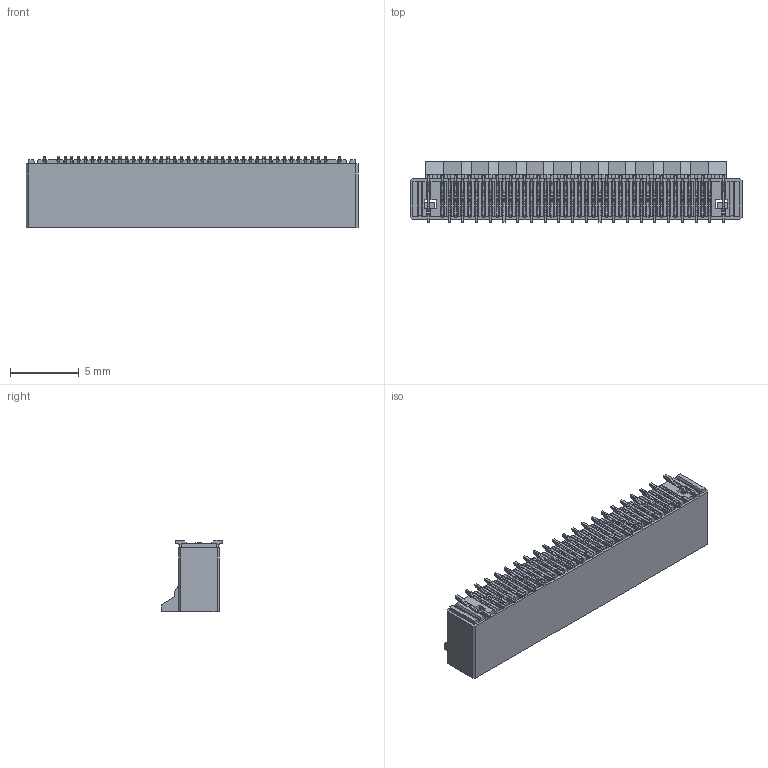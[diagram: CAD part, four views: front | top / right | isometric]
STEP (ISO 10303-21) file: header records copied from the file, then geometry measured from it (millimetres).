
FILE_DESCRIPTION((''),'2;1');
FILE_NAME('XL05523-40PIN','2023-12-01T',('PMT1'),(''),'PRO/ENGINEER BY PARAMETRIC TECHNOLOGY CORPORATION, 2009140','PRO/ENGINEER BY PARAMETRIC TECHNOLOGY CORPORATION, 2009140','');
FILE_SCHEMA(('CONFIG_CONTROL_DESIGN'));
Products named in the file (1): XL05523-40PIN
Bounding box: 24.2 x 4.45 x 5.2 mm (x, y, z)
Volume: 262.5 mm3; surface area: 1774.8 mm2
Topology: 1 solids, 1 shells, 4038 faces, 13006 edges, 8609 vertices
Faces by surface type: plane 2633, cylinder 1405
Entity records: 143979 total; most frequent: ORIENTED_EDGE 26012, CARTESIAN_POINT 25701, DIRECTION 24147, EDGE_CURVE 13006, VECTOR 9905, LINE 9905, VERTEX_POINT 8609, AXIS2_PLACEMENT_3D 7121
